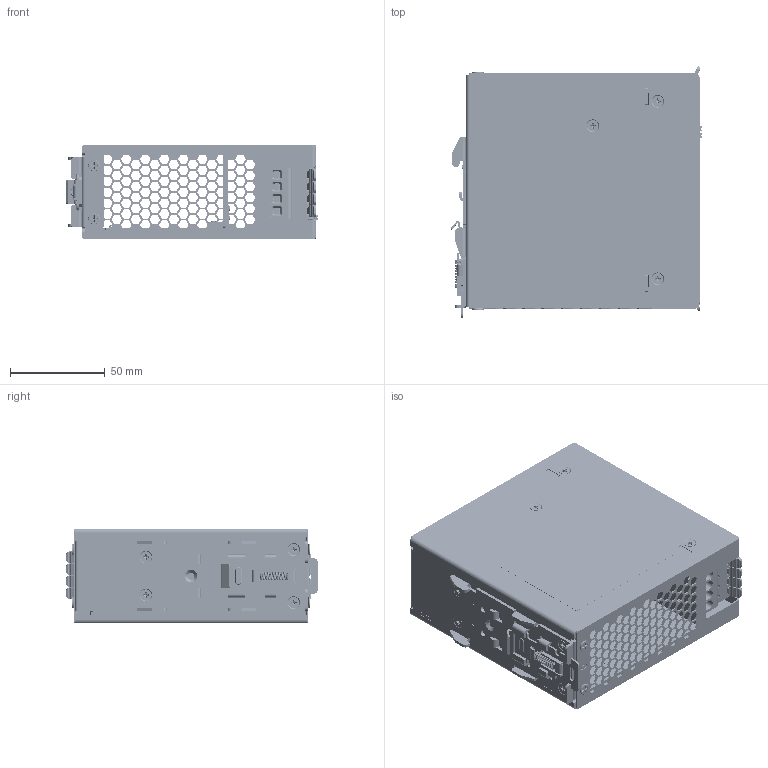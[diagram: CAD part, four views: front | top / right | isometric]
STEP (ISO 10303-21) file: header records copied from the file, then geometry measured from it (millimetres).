
FILE_DESCRIPTION((''),'2;1');
FILE_NAME('DRF-24V240W3GTA_ASM','2023-02-21T',('Nut.Phor'),(''),'CREO PARAMETRIC BY PTC INC, 2015080','CREO PARAMETRIC BY PTC INC, 2015080','');
FILE_SCHEMA(('CONFIG_CONTROL_DESIGN'));
Products named in the file (53): 330399890205_2107_1; 330399890205_2107_2; 330399890205_2107_3; 330399890205_2107_ASM; 3240035TPS01_144; 2948019400_900; EE_LED_GREEN_2300251506_64; EE_VR_0604101318_19; 3461381401_STANDOFF_L3_20; 3470401800_2; 2969817400_ADC-174_318; 3460375301_34; MSBR-16_1_2_1; MSBR-15_1_2_1; MSBR-14_1_2_1; MSBR-13_1_2_1; MSBR-12_1_2_1; MSBR-11_1_2_1; MSBR-10_1_2_AF0_1; MSBR-9_1_2_AF0_1; MSBR-8_1_2_AF0_1; MSBR-7_1_2_1; MSBR-6_1_2_1; MSBR-5_1_2_1; MSBR-3_1_2_AF0_1; MSBR-2_1_2_AF0_1; MSBR-1_1_2_AF0_1; MSBR-2_1_2_AF1_1; MSBR-8_1_2_AF1_1; MSBR-4_1_2_AF0_1; 307036791G_4PIN_ASM_11_ASM; ASSY_ADC-174_171_ASM_4400_ASM; 334817180000_BODY_91; 334817180000_A_C098_CIM_6; 334817180000_ASM_128_ASM; ASSY_HSK1_2MM_ASM_818_ASM; 334817170000_BODY_381; 334817170000_A_C098_CIM_14; 334817170000_ASM_206_ASM; ASSY_HSK2_DSM_ASM_793_ASM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
Assembly tree (72 placements, depth 5):
  DRF-24V240W3GTA_ASM
    330399890205_2107_ASM
      330399890205_2107_1
      330399890205_2107_2
      330399890205_2107_3
    3240035TPS01_144
    ASSY_MAINBOARD_QLIQIII_3PH_ASM__ASM
      2948019400_900
      EE_LED_GREEN_2300251506_64
      EE_VR_0604101318_19
      3461381401_STANDOFF_L3_20  x2
      3470401800_2  x2
      ASSY_ADC-174_171_ASM_4400_ASM
        2969817400_ADC-174_318
        3460375301_34  x2
        307036791G_4PIN_ASM_11_ASM  x2
          MSBR-16_1_2_1
          MSBR-15_1_2_1
          MSBR-14_1_2_1
          MSBR-13_1_2_1
          MSBR-12_1_2_1
          MSBR-11_1_2_1
          MSBR-10_1_2_AF0_1
          MSBR-9_1_2_AF0_1
          MSBR-8_1_2_AF0_1
          MSBR-7_1_2_1
          MSBR-6_1_2_1
          MSBR-5_1_2_1
          MSBR-3_1_2_AF0_1
          MSBR-2_1_2_AF0_1
          MSBR-1_1_2_AF0_1
          MSBR-2_1_2_AF1_1
          MSBR-8_1_2_AF1_1
          MSBR-4_1_2_AF0_1
      ASSY_HSK1_2MM_ASM_818_ASM
        334817180000_ASM_128_ASM
          334817180000_BODY_91
          334817180000_A_C098_CIM_6
      ASSY_HSK2_DSM_ASM_793_ASM
        334817170000_ASM_206_ASM
          334817170000_BODY_381
          334817170000_A_C098_CIM_14
      307307817U_DEGSO_36
      3105378800_00_41  x2
    3100000600_24  x10
    ASSY_BASE-LATCH-SPRING_ASM_159_ASM
      346654410304_73
      346008810000_13
      346202620000_19
    326820910000_46
    337523150203_1018
    3105039100_20  x4
    326284920000_102
Bounding box: 132.94 x 132.95 x 50.08 mm (x, y, z)
Volume: 135447.7 mm3; surface area: 254042.6 mm2
Topology: 83 solids, 91 shells, 14351 faces, 39192 edges, 25294 vertices
Faces by surface type: plane 7850, cylinder 4067, cone 867, bspline 662, torus 596, extrusion 293, sphere 16
Entity records: 362698 total; most frequent: CARTESIAN_POINT 89518, ORIENTED_EDGE 46798, DIRECTION 44070, EDGE_CURVE 23399, VECTOR 16398, LINE 16122, VERTEX_POINT 15272, PRESENTATION_STYLE_ASSIGNMENT 13958
